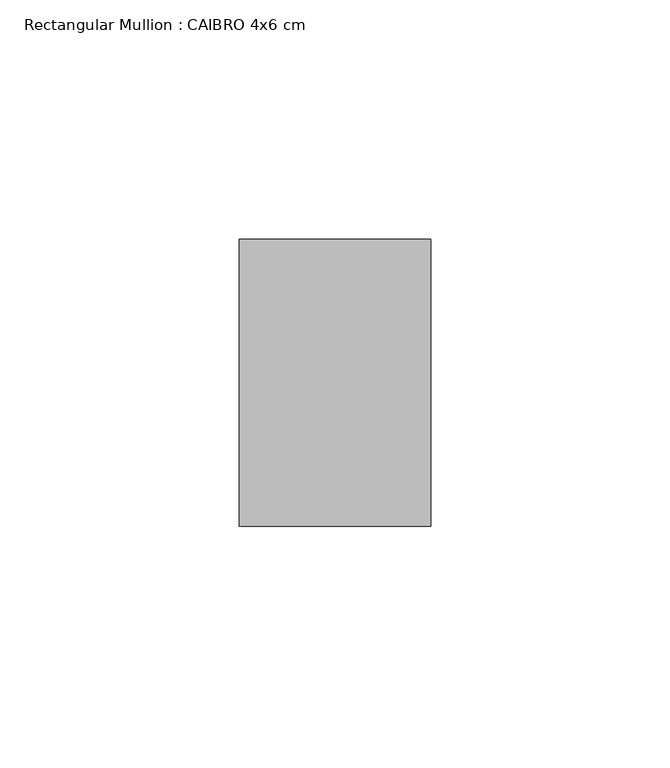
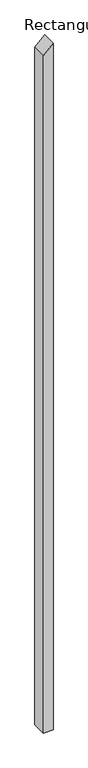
"""IFC4 building model written with IfcOpenShell, lengths in millimetres: member geometry, Rectangular Mullion : CAIBRO 4x6 cm."""

from ifc_helpers import new_model, si_unit, frame, origin, place, context, project, spatial, polyline, outline, extrude, source, transform, mapped, element, save


def rectangular_mullion_caibro_4x6_cm_9a3c8869(model_context):
    return source(origin(), model_context, "Body", "SweptSolid", [
        extrude(outline(polyline([(-36.6621022, 20.0), (-77.109599, -20.0), (-3028.7652353, -20.0), (-3028.7652353, 20.0), (-36.6621022, 20.0)])), frame((0.0, 0.0, 0.0), z_axis=(0.0, 1.0, 0.0), x_axis=(0.0, 0.0, 1.0)), (0.0, 0.0, 1.0), 60.0),
    ])


if __name__ == "__main__":
    model = new_model("IFC4")
    model_context = context("Model", 3, world=origin())
    ifc_project = project(units=[si_unit("LENGTHUNIT", "METRE", prefix="MILLI")], contexts=[model_context])
    site = spatial("IfcSite", under=ifc_project)
    building = spatial("IfcBuilding", under=site)
    placement = place(None, origin())
    rectangular_mullion_caibro_4x6_cm_shape = rectangular_mullion_caibro_4x6_cm_9a3c8869(model_context)
    element("IfcMember", 1, ObjectType="Rectangular Mullion : CAIBRO 4x6 cm", at=placement, inside=building, context=model_context, shape_type="MappedRepresentation", body=[
        mapped(rectangular_mullion_caibro_4x6_cm_shape, transform((0.0, 0.0, 0.0), x_axis=(1.0, 0.0, 0.0), y_axis=(0.0, 1.0, 0.0), z_axis=(0.0, 0.0, 1.0))),
    ])
    save(model, "model.ifc")
